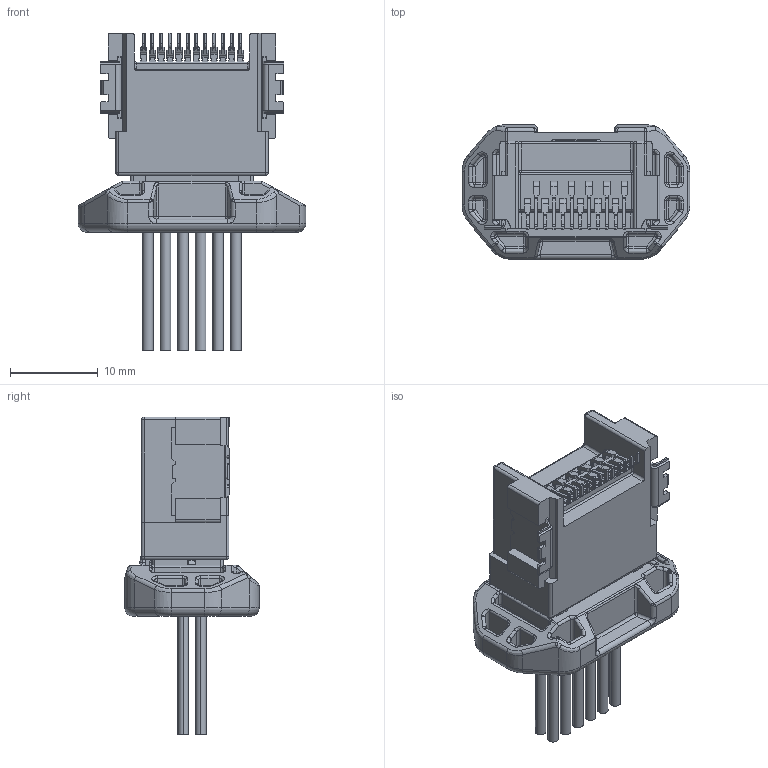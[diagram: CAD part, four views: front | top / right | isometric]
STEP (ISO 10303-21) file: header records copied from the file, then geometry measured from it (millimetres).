
FILE_DESCRIPTION (( 'STEP AP203' ), '1' );
FILE_NAME ('ISH 12P CONNECTOR with REAR COVER.STEP', '2018-08-20T12:15:51', ( '' ), ( '' ), 'SwSTEP 2.0', 'SolidWorks 2017', '' );
FILE_SCHEMA (( 'CONFIG_CONTROL_DESIGN' ));
Length unit declared in the file: millimetre
Products named in the file (4): Part3^ISH 12P FEMALE CONNECTOR; ISH 12P FEMALE CONNECTOR_リアカバー穴埋め; Part6^ISH 12P MALE CONNECTOR; ISH 12P CONNECTOR with REAR COVER
Assembly tree (3 placements, depth 3):
  ISH 12P CONNECTOR with REAR COVER
    ISH 12P FEMALE CONNECTOR_リアカバー穴埋め
      Part3^ISH 12P FEMALE CONNECTOR
    Part6^ISH 12P MALE CONNECTOR
Bounding box: 25.9 x 15.3 x 36.15 mm (x, y, z)
Volume: 7035.2 mm3; surface area: 5664.4 mm2
Topology: 2 solids, 2 shells, 1836 faces, 4718 edges, 2858 vertices
Faces by surface type: plane 841, cylinder 665, bspline 134, sphere 100, torus 64, cone 32
Entity records: 56744 total; most frequent: CARTESIAN_POINT 13241, ORIENTED_EDGE 9248, DIRECTION 8862, EDGE_CURVE 4624, AXIS2_PLACEMENT_3D 2965, LINE 2932, VECTOR 2932, VERTEX_POINT 2850
